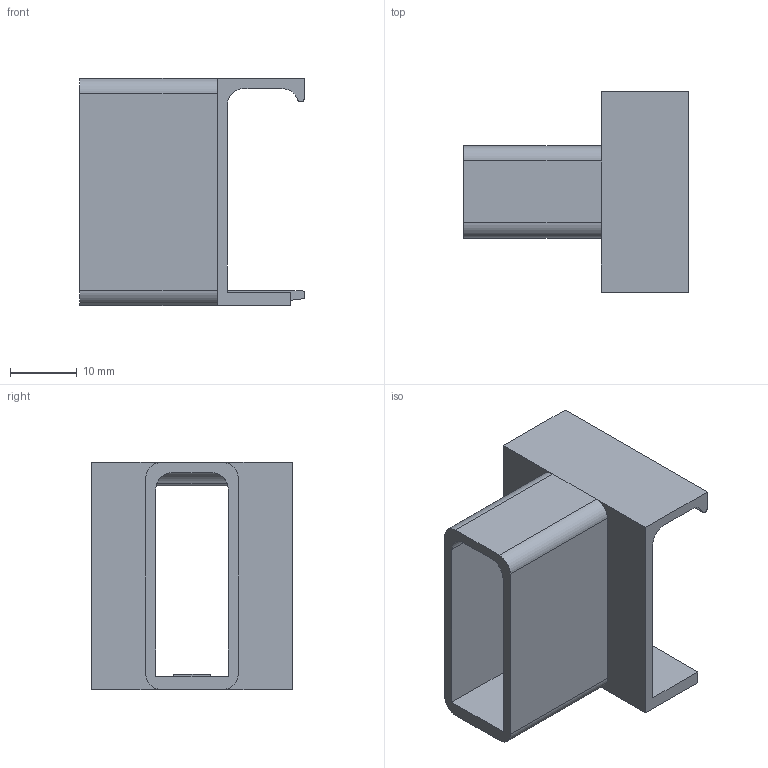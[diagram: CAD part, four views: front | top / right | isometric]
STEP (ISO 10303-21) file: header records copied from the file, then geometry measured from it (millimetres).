
FILE_DESCRIPTION (( 'STEP AP214' ), '1' );
FILE_NAME ('Unterteilungshalter 6180 HU.STEP', '2010-09-07T12:18:12', ( 'grass' ), ( '' ), 'SwSTEP 2.0', 'SolidWorks 2010', '' );
FILE_SCHEMA (( 'AUTOMOTIVE_DESIGN' ));
Length unit declared in the file: millimetre
Products named in the file (1): Unterteilungshalter 6180 HU
Bounding box: 33.5 x 30 x 33.9 mm (x, y, z)
Volume: 4937.7 mm3; surface area: 6656.1 mm2
Topology: 1 solids, 1 shells, 42 faces, 117 edges, 76 vertices
Faces by surface type: plane 32, cylinder 10
Entity records: 1367 total; most frequent: CARTESIAN_POINT 242, ORIENTED_EDGE 234, DIRECTION 217, EDGE_CURVE 117, VECTOR 99, LINE 99, VERTEX_POINT 76, AXIS2_PLACEMENT_3D 59
